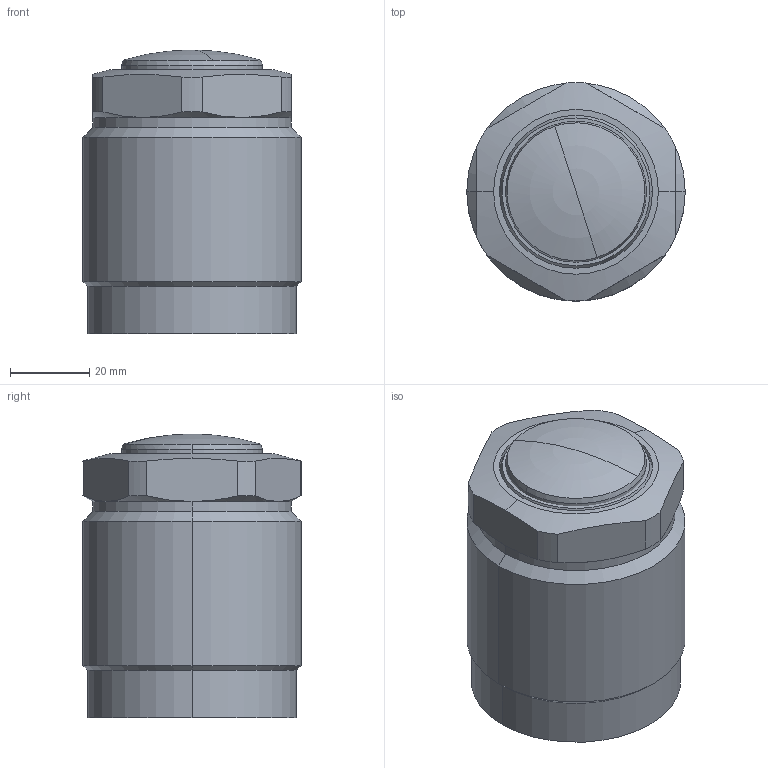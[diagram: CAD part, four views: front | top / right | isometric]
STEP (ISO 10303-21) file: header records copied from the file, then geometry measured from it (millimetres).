
FILE_DESCRIPTION((' '),'2;1');
FILE_NAME( 'TGP55-RM.x_t.stp', '2025-02-10T16:03:57', (' '), ('--- Datakit www.datakit.com---'), ' Datakit CrossCadWare V2024.1 Dec 21 2023', 'Mastercam 2025', ' ');
FILE_SCHEMA(('AUTOMOTIVE_DESIGN { 1 0 10303 214 1 1 1 1 }'));
Length unit declared in the file: millimetre
Products named in the file (1): TGP55-RM
Bounding box: 55 x 55 x 71.5 mm (x, y, z)
Volume: 170825.6 mm3; surface area: 21469.4 mm2
Topology: 2 solids, 2 shells, 64 faces, 148 edges, 90 vertices
Faces by surface type: cylinder 26, cone 18, plane 14, torus 6
Entity records: 1922 total; most frequent: CARTESIAN_POINT 435, DIRECTION 334, ORIENTED_EDGE 288, AXIS2_PLACEMENT_3D 145, EDGE_CURVE 144, VERTEX_POINT 90, CIRCLE 80, EDGE_LOOP 70
